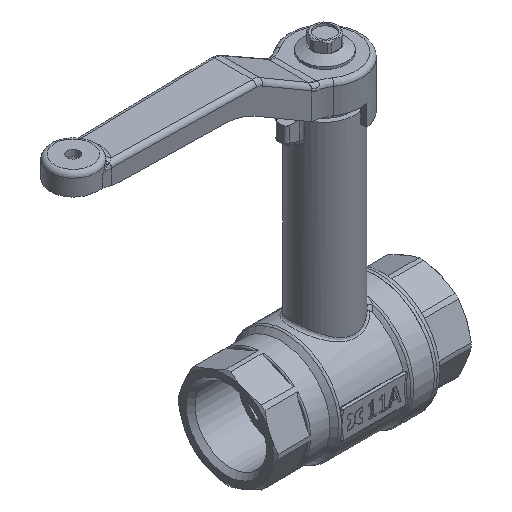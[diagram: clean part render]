
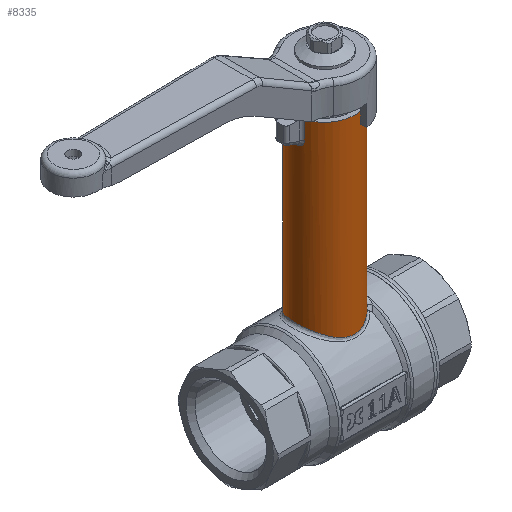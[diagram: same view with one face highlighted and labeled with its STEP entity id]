
A CAD part, isometric view. The second image highlights one B-rep face of the part: STEP entity #8335.
In plain terms, the highlighted cylindrical face has radius 10 mm (diameter 20 mm), a full revolution.
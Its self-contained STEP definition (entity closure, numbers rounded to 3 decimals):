
#142=ELLIPSE('',#8901,10.772,10.);
#420=B_SPLINE_CURVE_WITH_KNOTS('',3,(#14035,#14036,#14037,#14038,#14039,
#14040),.UNSPECIFIED.,.F.,.F.,(4,1,1,4),(0.,0.091,0.181,
0.317),.UNSPECIFIED.);
#422=B_SPLINE_CURVE_WITH_KNOTS('',3,(#14102,#14103,#14104,#14105,#14106,
#14107),.UNSPECIFIED.,.F.,.F.,(4,1,1,4),(0.,0.136,0.227,
0.317),.UNSPECIFIED.);
#423=B_SPLINE_CURVE_WITH_KNOTS('',3,(#14111,#14112,#14113,#14114),
 .UNSPECIFIED.,.F.,.F.,(4,4),(-4.642,-4.498),
 .UNSPECIFIED.);
#424=B_SPLINE_CURVE_WITH_KNOTS('',3,(#14116,#14117,#14118,#14119,#14120,
#14121,#14122,#14123,#14124),.UNSPECIFIED.,.F.,.F.,(4,1,1,1,1,1,4),(-1.495,
-1.281,-0.854,-0.641,-0.427,
-0.214,0.),.UNSPECIFIED.);
#425=B_SPLINE_CURVE_WITH_KNOTS('',3,(#14126,#14127,#14128,#14129),
 .UNSPECIFIED.,.F.,.F.,(4,4),(-0.145,0.),.UNSPECIFIED.);
#426=B_SPLINE_CURVE_WITH_KNOTS('',3,(#14130,#14131,#14132,#14133,#14134,
#14135,#14136,#14137,#14138,#14139,#14140,#14141,#14142,#14143,#14144,#14145),
 .UNSPECIFIED.,.F.,.F.,(4,1,1,1,1,1,1,1,1,1,1,1,1,4),(4.346,
4.708,5.095,5.482,5.87,6.644,
6.902,7.419,7.612,8.193,8.581,
8.968,9.355,9.716),.UNSPECIFIED.);
#522=LINE('',#11816,#1105);
#902=LINE('',#13992,#1485);
#1105=VECTOR('',#9532,6.343);
#1485=VECTOR('',#10378,6.343);
#1965=CYLINDRICAL_SURFACE('',#8902,10.);
#2097=FACE_BOUND('',#2986,.T.);
#2423=FACE_OUTER_BOUND('',#2985,.T.);
#2985=EDGE_LOOP('',(#6831,#6832,#6833,#6834,#6835,#6836));
#2986=EDGE_LOOP('',(#6837,#6838,#6839,#6840));
#3375=CIRCLE('',#8647,10.);
#3704=VERTEX_POINT('',#11750);
#3705=VERTEX_POINT('',#11752);
#3715=VERTEX_POINT('',#11814);
#4106=VERTEX_POINT('',#13991);
#4108=VERTEX_POINT('',#14026);
#4110=VERTEX_POINT('',#14061);
#4112=VERTEX_POINT('',#14109);
#4113=VERTEX_POINT('',#14110);
#4114=VERTEX_POINT('',#14115);
#4115=VERTEX_POINT('',#14125);
#4504=EDGE_CURVE('',#3705,#3704,#3375,.T.);
#4516=EDGE_CURVE('',#3715,#3704,#522,.T.);
#5094=EDGE_CURVE('',#3705,#4106,#902,.T.);
#5099=EDGE_CURVE('',#4106,#4108,#420,.T.);
#5102=EDGE_CURVE('',#4108,#4110,#142,.T.);
#5104=EDGE_CURVE('',#4110,#3715,#422,.T.);
#5105=EDGE_CURVE('',#4112,#4113,#423,.T.);
#5106=EDGE_CURVE('',#4114,#4112,#424,.T.);
#5107=EDGE_CURVE('',#4115,#4114,#425,.T.);
#5108=EDGE_CURVE('',#4113,#4115,#426,.T.);
#6831=ORIENTED_EDGE('',*,*,#4504,.T.);
#6832=ORIENTED_EDGE('',*,*,#4516,.F.);
#6833=ORIENTED_EDGE('',*,*,#5104,.F.);
#6834=ORIENTED_EDGE('',*,*,#5102,.F.);
#6835=ORIENTED_EDGE('',*,*,#5099,.F.);
#6836=ORIENTED_EDGE('',*,*,#5094,.F.);
#6837=ORIENTED_EDGE('',*,*,#5105,.F.);
#6838=ORIENTED_EDGE('',*,*,#5106,.F.);
#6839=ORIENTED_EDGE('',*,*,#5107,.F.);
#6840=ORIENTED_EDGE('',*,*,#5108,.F.);
#8335=ADVANCED_FACE('',(#2423,#2097),#1965,.T.);
#8647=AXIS2_PLACEMENT_3D('',#11753,#9496,#9497);
#8901=AXIS2_PLACEMENT_3D('',#14065,#10388,#10389);
#8902=AXIS2_PLACEMENT_3D('',#14108,#10390,#10391);
#9496=DIRECTION('center_axis',(0.,0.,-1.));
#9497=DIRECTION('ref_axis',(-1.,0.,0.));
#9532=DIRECTION('',(0.,0.,1.));
#10378=DIRECTION('',(0.,0.,-1.));
#10388=DIRECTION('center_axis',(0.372,0.,0.928));
#10389=DIRECTION('ref_axis',(-0.928,0.,0.372));
#10390=DIRECTION('center_axis',(0.,0.,1.));
#10391=DIRECTION('ref_axis',(-1.,0.,0.));
#11750=CARTESIAN_POINT('',(-9.621,-2.727,79.8));
#11752=CARTESIAN_POINT('',(-9.621,2.727,79.8));
#11753=CARTESIAN_POINT('Origin',(0.,0.,79.8));
#11814=CARTESIAN_POINT('',(-9.621,-2.727,73.457));
#11816=CARTESIAN_POINT('',(-9.621,-2.727,0.));
#13991=CARTESIAN_POINT('',(-9.621,2.727,73.457));
#13992=CARTESIAN_POINT('',(-9.621,2.727,0.));
#14026=CARTESIAN_POINT('',(-9.959,0.909,71.463));
#14035=CARTESIAN_POINT('Ctrl Pts',(-9.621,2.727,73.457));
#14036=CARTESIAN_POINT('Ctrl Pts',(-9.621,2.727,73.154));
#14037=CARTESIAN_POINT('Ctrl Pts',(-9.654,2.614,72.543));
#14038=CARTESIAN_POINT('Ctrl Pts',(-9.808,2.008,71.69));
#14039=CARTESIAN_POINT('Ctrl Pts',(-9.921,1.319,71.448));
#14040=CARTESIAN_POINT('Ctrl Pts',(-9.959,0.909,
71.463));
#14061=CARTESIAN_POINT('',(-9.959,-0.909,71.463));
#14065=CARTESIAN_POINT('Origin',(0.,0.,67.476));
#14102=CARTESIAN_POINT('Ctrl Pts',(-9.959,-0.909,
71.463));
#14103=CARTESIAN_POINT('Ctrl Pts',(-9.921,-1.319,
71.448));
#14104=CARTESIAN_POINT('Ctrl Pts',(-9.808,-2.01,71.69));
#14105=CARTESIAN_POINT('Ctrl Pts',(-9.653,-2.615,
72.546));
#14106=CARTESIAN_POINT('Ctrl Pts',(-9.621,-2.727,
73.154));
#14107=CARTESIAN_POINT('Ctrl Pts',(-9.621,-2.727,
73.457));
#14108=CARTESIAN_POINT('Origin',(0.,0.,0.));
#14109=CARTESIAN_POINT('',(7.955,-6.06,19.03));
#14110=CARTESIAN_POINT('',(7.351,-6.78,18.017));
#14111=CARTESIAN_POINT('Ctrl Pts',(7.955,-6.06,19.03));
#14112=CARTESIAN_POINT('Ctrl Pts',(7.759,-6.316,18.704));
#14113=CARTESIAN_POINT('Ctrl Pts',(7.557,-6.556,18.366));
#14114=CARTESIAN_POINT('Ctrl Pts',(7.351,-6.78,18.018));
#14115=CARTESIAN_POINT('',(7.955,6.06,19.03));
#14116=CARTESIAN_POINT('Ctrl Pts',(7.955,6.06,19.03));
#14117=CARTESIAN_POINT('Ctrl Pts',(8.243,5.682,19.513));
#14118=CARTESIAN_POINT('Ctrl Pts',(9.243,4.177,20.498));
#14119=CARTESIAN_POINT('Ctrl Pts',(10.023,1.613,20.562));
#14120=CARTESIAN_POINT('Ctrl Pts',(10.013,-0.978,20.572));
#14121=CARTESIAN_POINT('Ctrl Pts',(9.638,-2.899,20.52));
#14122=CARTESIAN_POINT('Ctrl Pts',(8.897,-4.694,20.172));
#14123=CARTESIAN_POINT('Ctrl Pts',(8.243,-5.682,19.513));
#14124=CARTESIAN_POINT('Ctrl Pts',(7.955,-6.06,19.03));
#14125=CARTESIAN_POINT('',(7.351,6.78,18.017));
#14126=CARTESIAN_POINT('Ctrl Pts',(7.351,6.78,18.018));
#14127=CARTESIAN_POINT('Ctrl Pts',(7.557,6.556,18.366));
#14128=CARTESIAN_POINT('Ctrl Pts',(7.759,6.316,18.704));
#14129=CARTESIAN_POINT('Ctrl Pts',(7.955,6.06,19.03));
#14130=CARTESIAN_POINT('Ctrl Pts',(7.351,-6.78,18.017));
#14131=CARTESIAN_POINT('Ctrl Pts',(6.636,-7.555,17.665));
#14132=CARTESIAN_POINT('Ctrl Pts',(4.911,-8.918,16.896));
#14133=CARTESIAN_POINT('Ctrl Pts',(1.671,-10.077,16.047));
#14134=CARTESIAN_POINT('Ctrl Pts',(-1.963,-10.018,16.087));
#14135=CARTESIAN_POINT('Ctrl Pts',(-6.308,-8.335,
17.321));
#14136=CARTESIAN_POINT('Ctrl Pts',(-9.091,-5.02,
18.947));
#14137=CARTESIAN_POINT('Ctrl Pts',(-10.212,-0.43,
19.631));
#14138=CARTESIAN_POINT('Ctrl Pts',(-9.85,2.591,19.399));
#14139=CARTESIAN_POINT('Ctrl Pts',(-8.201,6.081,18.433));
#14140=CARTESIAN_POINT('Ctrl Pts',(-5.775,8.536,17.169));
#14141=CARTESIAN_POINT('Ctrl Pts',(-1.957,10.022,16.087));
#14142=CARTESIAN_POINT('Ctrl Pts',(1.668,10.075,16.045));
#14143=CARTESIAN_POINT('Ctrl Pts',(4.911,8.919,16.896));
#14144=CARTESIAN_POINT('Ctrl Pts',(6.636,7.555,17.665));
#14145=CARTESIAN_POINT('Ctrl Pts',(7.351,6.78,18.017));
